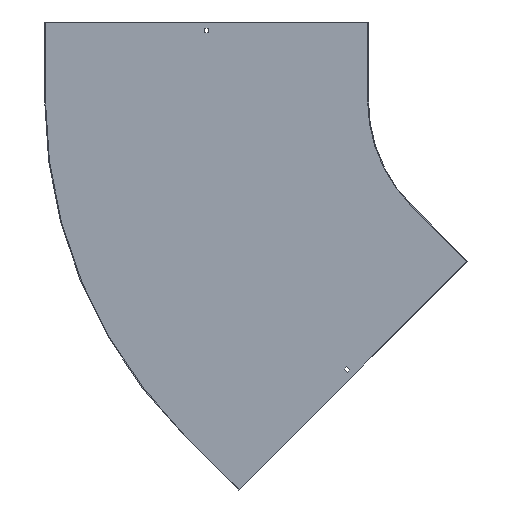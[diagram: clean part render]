
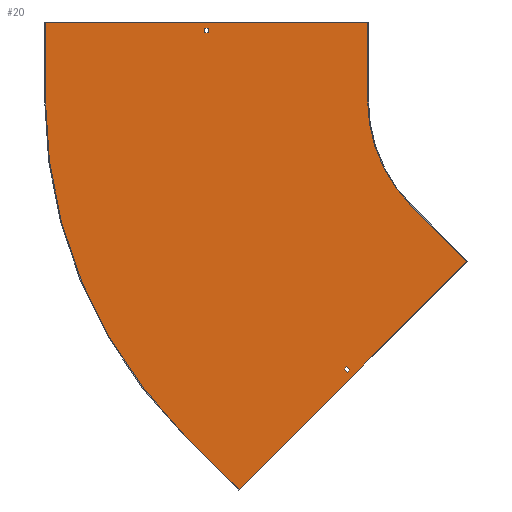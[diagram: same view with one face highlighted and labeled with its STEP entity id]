
A CAD part, front view. The second image highlights one B-rep face of the part: STEP entity #20.
In plain terms, the highlighted planar face has unit normal (0, -1, 0).
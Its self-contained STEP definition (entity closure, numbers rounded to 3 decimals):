
#20 = ADVANCED_FACE ( 'NONE', ( #278, #21, #625 ), #481, .T. ) ;
#21 = FACE_OUTER_BOUND ( 'NONE', #327, .T. ) ;
#22 = VERTEX_POINT ( 'NONE', #758 ) ;
#24 = CARTESIAN_POINT ( 'NONE',  ( 0., -1.5, 0. ) ) ;
#32 = CARTESIAN_POINT ( 'NONE',  ( -537.401, -1.5, -749.533 ) ) ;
#33 = DIRECTION ( 'NONE',  ( -0.707, 0., -0.707 ) ) ;
#34 = CARTESIAN_POINT ( 'NONE',  ( -205.061, -1.5, -205.061 ) ) ;
#43 = VECTOR ( 'NONE', #559, 1000. ) ;
#52 = EDGE_CURVE ( 'NONE', #22, #391, #291, .T. ) ;
#53 = VERTEX_POINT ( 'NONE', #683 ) ;
#54 = DIRECTION ( 'NONE',  ( -0.707, 0., 0.707 ) ) ;
#64 = EDGE_CURVE ( 'NONE', #414, #22, #446, .T. ) ;
#68 = VERTEX_POINT ( 'NONE', #85 ) ;
#69 = DIRECTION ( 'NONE',  ( 0., 0., 1. ) ) ;
#70 = CARTESIAN_POINT ( 'NONE',  ( -603.25, -1.5, 129. ) ) ;
#73 = CIRCLE ( 'NONE', #571, 290. ) ;
#85 = CARTESIAN_POINT ( 'NONE',  ( -335.345, -1.5, -517.779 ) ) ;
#93 = CARTESIAN_POINT ( 'NONE',  ( -910., -1.5, 150. ) ) ;
#94 = CARTESIAN_POINT ( 'NONE',  ( -910., -1.5, 0. ) ) ;
#97 = LINE ( 'NONE', #605, #243 ) ;
#126 = CARTESIAN_POINT ( 'NONE',  ( -324.385, -1.5, -519.547 ) ) ;
#139 = EDGE_CURVE ( 'NONE', #487, #166, #73, .T. ) ;
#140 = CARTESIAN_POINT ( 'NONE',  ( 97.581, -1.5, -97.581 ) ) ;
#141 = LINE ( 'NONE', #595, #462 ) ;
#166 = VERTEX_POINT ( 'NONE', #565 ) ;
#167 = CARTESIAN_POINT ( 'NONE',  ( -596.75, -1.5, 138. ) ) ;
#168 = DIRECTION ( 'NONE',  ( 0., -1., 0. ) ) ;
#173 = DIRECTION ( 'NONE',  ( 0., 0., -1. ) ) ;
#174 = ORIENTED_EDGE ( 'NONE', *, *, #781, .F. ) ;
#175 = LINE ( 'NONE', #303, #527 ) ;
#177 = CARTESIAN_POINT ( 'NONE',  ( 91.217, -1.5, -91.217 ) ) ;
#180 = CARTESIAN_POINT ( 'NONE',  ( -596.75, -1.5, 0. ) ) ;
#187 = EDGE_CURVE ( 'NONE', #759, #68, #771, .T. ) ;
#192 = VERTEX_POINT ( 'NONE', #842 ) ;
#193 = VECTOR ( 'NONE', #421, 1000. ) ;
#209 = LINE ( 'NONE', #455, #541 ) ;
#219 = CARTESIAN_POINT ( 'NONE',  ( -330.749, -1.5, -513.183 ) ) ;
#227 = CARTESIAN_POINT ( 'NONE',  ( -643.467, -1.5, -643.467 ) ) ;
#231 = EDGE_CURVE ( 'NONE', #166, #53, #503, .T. ) ;
#233 = LINE ( 'NONE', #502, #338 ) ;
#243 = VECTOR ( 'NONE', #407, 1000. ) ;
#249 = CARTESIAN_POINT ( 'NONE',  ( -290., -1.5, 0. ) ) ;
#256 = ORIENTED_EDGE ( 'NONE', *, *, #850, .F. ) ;
#262 = ORIENTED_EDGE ( 'NONE', *, *, #558, .F. ) ;
#269 = VERTEX_POINT ( 'NONE', #70 ) ;
#278 = FACE_BOUND ( 'NONE', #618, .T. ) ;
#289 = ORIENTED_EDGE ( 'NONE', *, *, #64, .F. ) ;
#291 = LINE ( 'NONE', #94, #829 ) ;
#295 = EDGE_CURVE ( 'NONE', #68, #337, #141, .T. ) ;
#301 = VERTEX_POINT ( 'NONE', #126 ) ;
#303 = CARTESIAN_POINT ( 'NONE',  ( -290., -1.5, 150. ) ) ;
#320 = DIRECTION ( 'NONE',  ( -0.707, 0., -0.707 ) ) ;
#327 = EDGE_LOOP ( 'NONE', ( #437, #777, #289, #256, #806, #591, #646, #262 ) ) ;
#337 = VERTEX_POINT ( 'NONE', #805 ) ;
#338 = VECTOR ( 'NONE', #33, 1000. ) ;
#344 = CARTESIAN_POINT ( 'NONE',  ( 0., -1.5, 0. ) ) ;
#349 = LINE ( 'NONE', #140, #563 ) ;
#351 = DIRECTION ( 'NONE',  ( 0., 0., -1. ) ) ;
#356 = VERTEX_POINT ( 'NONE', #761 ) ;
#366 = ORIENTED_EDGE ( 'NONE', *, *, #371, .F. ) ;
#371 = EDGE_CURVE ( 'NONE', #301, #759, #97, .T. ) ;
#372 = CARTESIAN_POINT ( 'NONE',  ( -596.75, -1.5, 129. ) ) ;
#375 = LINE ( 'NONE', #577, #689 ) ;
#391 = VERTEX_POINT ( 'NONE', #93 ) ;
#407 = DIRECTION ( 'NONE',  ( -0.707, 0., 0.707 ) ) ;
#414 = VERTEX_POINT ( 'NONE', #227 ) ;
#421 = DIRECTION ( 'NONE',  ( 1., 0., 0. ) ) ;
#424 = ORIENTED_EDGE ( 'NONE', *, *, #544, .T. ) ;
#425 = LINE ( 'NONE', #32, #451 ) ;
#437 = ORIENTED_EDGE ( 'NONE', *, *, #800, .F. ) ;
#438 = DIRECTION ( 'NONE',  ( 0., 0., -1. ) ) ;
#446 = CIRCLE ( 'NONE', #856, 910. ) ;
#451 = VECTOR ( 'NONE', #54, 1000. ) ;
#455 = CARTESIAN_POINT ( 'NONE',  ( -603.25, -1.5, 0. ) ) ;
#462 = VECTOR ( 'NONE', #659, 1000. ) ;
#476 = VECTOR ( 'NONE', #639, 1000. ) ;
#477 = VERTEX_POINT ( 'NONE', #372 ) ;
#481 = PLANE ( 'NONE',  #555 ) ;
#482 = EDGE_CURVE ( 'NONE', #477, #269, #375, .T. ) ;
#484 = LINE ( 'NONE', #760, #193 ) ;
#487 = VERTEX_POINT ( 'NONE', #249 ) ;
#502 = CARTESIAN_POINT ( 'NONE',  ( -97.934, -1.5, -310.066 ) ) ;
#503 = LINE ( 'NONE', #34, #762 ) ;
#508 = VERTEX_POINT ( 'NONE', #167 ) ;
#527 = VECTOR ( 'NONE', #438, 1000. ) ;
#529 = ORIENTED_EDGE ( 'NONE', *, *, #553, .T. ) ;
#540 = DIRECTION ( 'NONE',  ( 0., 0., -1. ) ) ;
#541 = VECTOR ( 'NONE', #69, 1000. ) ;
#544 = EDGE_CURVE ( 'NONE', #596, #508, #710, .T. ) ;
#551 = EDGE_CURVE ( 'NONE', #53, #192, #233, .T. ) ;
#553 = EDGE_CURVE ( 'NONE', #508, #477, #779, .T. ) ;
#555 = AXIS2_PLACEMENT_3D ( 'NONE', #344, #767, #351 ) ;
#558 = EDGE_CURVE ( 'NONE', #356, #487, #175, .T. ) ;
#559 = DIRECTION ( 'NONE',  ( 1., 0., 0. ) ) ;
#563 = VECTOR ( 'NONE', #619, 1000. ) ;
#565 = CARTESIAN_POINT ( 'NONE',  ( -205.061, -1.5, -205.061 ) ) ;
#571 = AXIS2_PLACEMENT_3D ( 'NONE', #849, #168, #173 ) ;
#577 = CARTESIAN_POINT ( 'NONE',  ( 0., -1.5, 129. ) ) ;
#591 = ORIENTED_EDGE ( 'NONE', *, *, #231, .F. ) ;
#595 = CARTESIAN_POINT ( 'NONE',  ( -426.562, -1.5, -426.562 ) ) ;
#596 = VERTEX_POINT ( 'NONE', #852 ) ;
#605 = CARTESIAN_POINT ( 'NONE',  ( -421.966, -1.5, -421.966 ) ) ;
#617 = DIRECTION ( 'NONE',  ( 0., 1., 0. ) ) ;
#618 = EDGE_LOOP ( 'NONE', ( #366, #174, #660, #665 ) ) ;
#619 = DIRECTION ( 'NONE',  ( 0.707, 0., 0.707 ) ) ;
#625 = FACE_BOUND ( 'NONE', #821, .T. ) ;
#626 = VECTOR ( 'NONE', #320, 1000. ) ;
#630 = CARTESIAN_POINT ( 'NONE',  ( 0., -1.5, 138. ) ) ;
#639 = DIRECTION ( 'NONE',  ( 0., 0., -1. ) ) ;
#646 = ORIENTED_EDGE ( 'NONE', *, *, #139, .F. ) ;
#659 = DIRECTION ( 'NONE',  ( 0.707, 0., -0.707 ) ) ;
#660 = ORIENTED_EDGE ( 'NONE', *, *, #295, .F. ) ;
#665 = ORIENTED_EDGE ( 'NONE', *, *, #187, .F. ) ;
#679 = EDGE_CURVE ( 'NONE', #269, #596, #209, .T. ) ;
#683 = CARTESIAN_POINT ( 'NONE',  ( -98.995, -1.5, -311.127 ) ) ;
#689 = VECTOR ( 'NONE', #848, 1000. ) ;
#710 = LINE ( 'NONE', #630, #43 ) ;
#758 = CARTESIAN_POINT ( 'NONE',  ( -910., -1.5, 0. ) ) ;
#759 = VERTEX_POINT ( 'NONE', #219 ) ;
#760 = CARTESIAN_POINT ( 'NONE',  ( -911.5, -1.5, 150. ) ) ;
#761 = CARTESIAN_POINT ( 'NONE',  ( -290., -1.5, 150. ) ) ;
#762 = VECTOR ( 'NONE', #780, 1000. ) ;
#767 = DIRECTION ( 'NONE',  ( 0., -1., 0. ) ) ;
#771 = LINE ( 'NONE', #177, #626 ) ;
#772 = ORIENTED_EDGE ( 'NONE', *, *, #482, .T. ) ;
#777 = ORIENTED_EDGE ( 'NONE', *, *, #52, .F. ) ;
#779 = LINE ( 'NONE', #180, #476 ) ;
#780 = DIRECTION ( 'NONE',  ( 0.707, 0., -0.707 ) ) ;
#781 = EDGE_CURVE ( 'NONE', #337, #301, #349, .T. ) ;
#800 = EDGE_CURVE ( 'NONE', #391, #356, #484, .T. ) ;
#805 = CARTESIAN_POINT ( 'NONE',  ( -328.981, -1.5, -524.143 ) ) ;
#806 = ORIENTED_EDGE ( 'NONE', *, *, #551, .F. ) ;
#821 = EDGE_LOOP ( 'NONE', ( #424, #529, #772, #851 ) ) ;
#822 = DIRECTION ( 'NONE',  ( 0., 0., 1. ) ) ;
#829 = VECTOR ( 'NONE', #822, 1000. ) ;
#842 = CARTESIAN_POINT ( 'NONE',  ( -537.401, -1.5, -749.533 ) ) ;
#848 = DIRECTION ( 'NONE',  ( -1., 0., 0. ) ) ;
#849 = CARTESIAN_POINT ( 'NONE',  ( 0., -1.5, 0. ) ) ;
#850 = EDGE_CURVE ( 'NONE', #192, #414, #425, .T. ) ;
#851 = ORIENTED_EDGE ( 'NONE', *, *, #679, .T. ) ;
#852 = CARTESIAN_POINT ( 'NONE',  ( -603.25, -1.5, 138. ) ) ;
#856 = AXIS2_PLACEMENT_3D ( 'NONE', #24, #617, #540 ) ;
